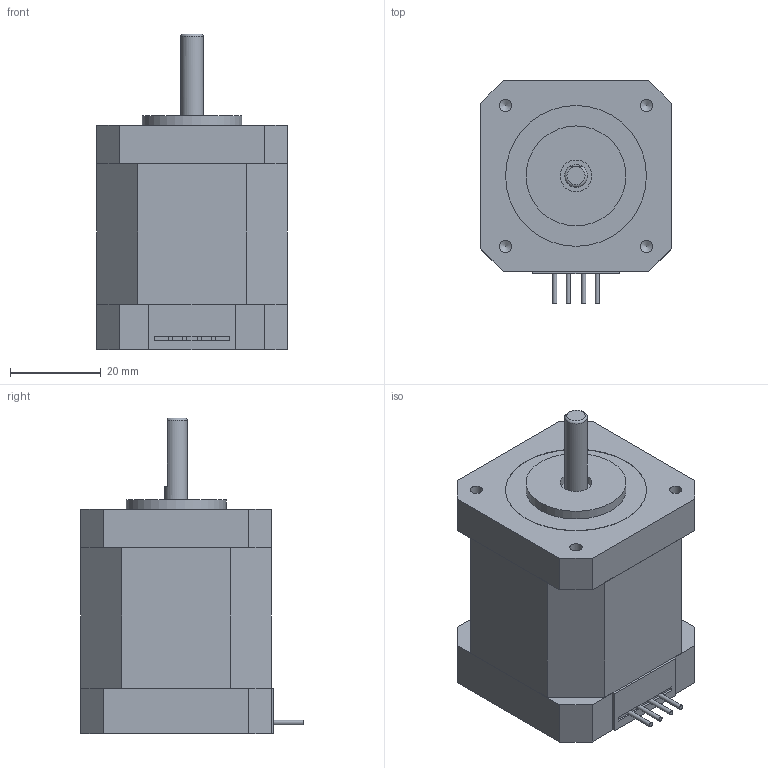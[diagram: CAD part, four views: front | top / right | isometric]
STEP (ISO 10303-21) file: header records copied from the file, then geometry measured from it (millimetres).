
FILE_DESCRIPTION(/* description */ (''),/* implementation_level */ '2;1');
FILE_NAME(/* name */ 'STP-42D4042-01.stp',/* time_stamp */ '2018-08-13T14:54:25+08:00',/* author */ (''),/* organization */ (''),/* preprocessor_version */ 'ST-DEVELOPER v11',/* originating_system */ 'SIEMENS UGS NX 6.0',/* authorisation */ '');
FILE_SCHEMA (('CONFIG_CONTROL_DESIGN'));
Length unit declared in the file: millimetre
Products named in the file (1): STP-42D4042-01
Bounding box: 42 x 49 x 69.5 mm (x, y, z)
Volume: 82067.6 mm3; surface area: 12133.9 mm2
Topology: 5 solids, 5 shells, 138 faces, 334 edges, 224 vertices
Faces by surface type: plane 110, cylinder 19, cone 8, torus 1
Full cylindrical faces by diameter (mm): 1 x4, 2.7 x4, 4.414 x4, 5 x2, 7 x2, 8.5 x1, 22 x1, 31 x1
Entity records: 3797 total; most frequent: CARTESIAN_POINT 648, DIRECTION 609, ORIENTED_EDGE 578, EDGE_CURVE 289, LINE 243, VECTOR 243, VERTEX_POINT 210, EDGE_LOOP 183
